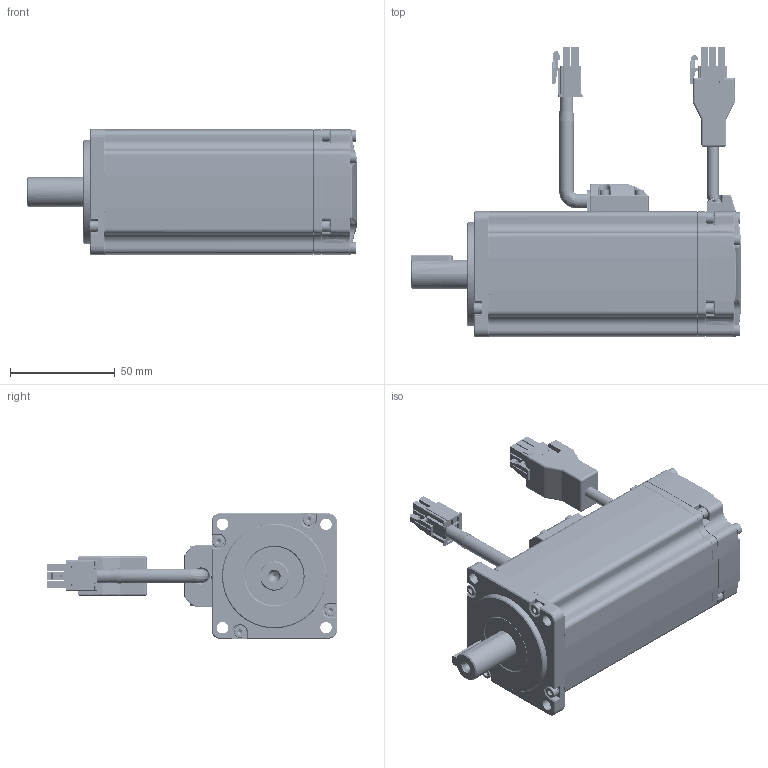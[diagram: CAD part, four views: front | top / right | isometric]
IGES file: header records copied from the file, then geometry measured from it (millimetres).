
Start section: SolidWorks IGES file using analytic representation for surfaces
Bounding box: 158 x 138.7 x 60 mm (x, y, z)
Surface area: 114722.8 mm2 (no closed solid volume)
Topology: 0 solids, 0 shells, 4828 faces, 35612 edges, 35467 vertices
Faces by surface type: bspline 3198, revolution 1630
